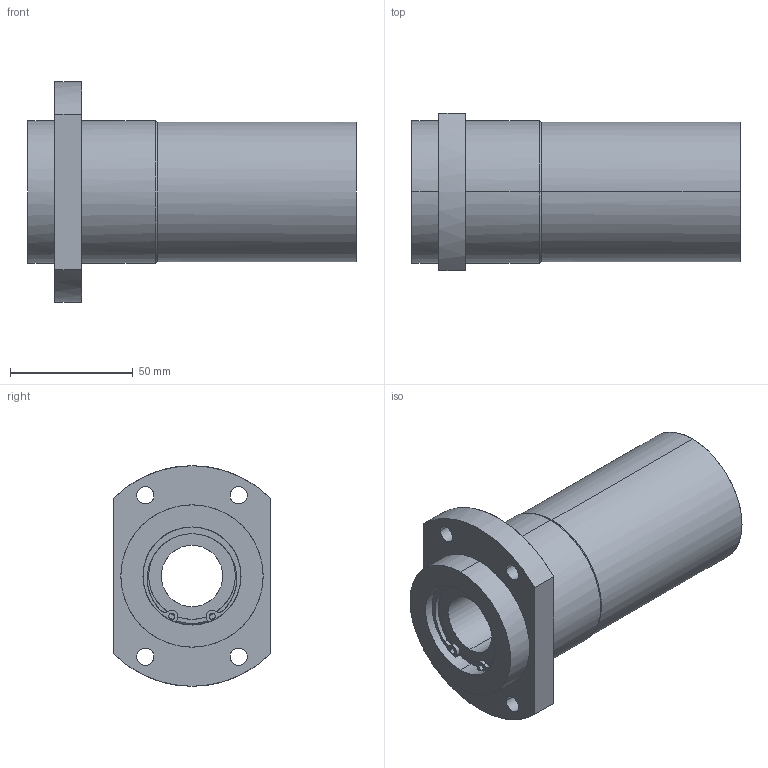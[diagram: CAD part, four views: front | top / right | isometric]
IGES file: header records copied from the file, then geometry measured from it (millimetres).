
Global section: file name: No Iges File Name specified; native system: AutoDesk Inventor R11.0; preprocessor: AutoDesk Inventor Iges Exporter R11.0; author: No Author specified; organization: No Organization specified; date: 20170922.133312; units: millimetre
Bounding box: 134 x 64 x 90 mm (x, y, z)
Surface area: 48617.6 mm2 (no closed solid volume)
Topology: 0 solids, 0 shells, 95 faces, 738 edges, 738 vertices
Faces by surface type: bspline 95
